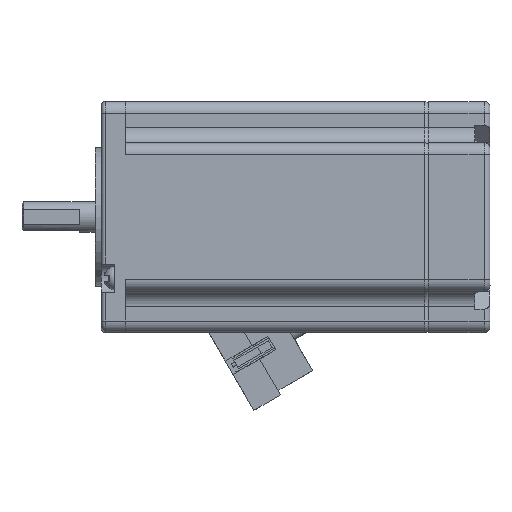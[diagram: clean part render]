
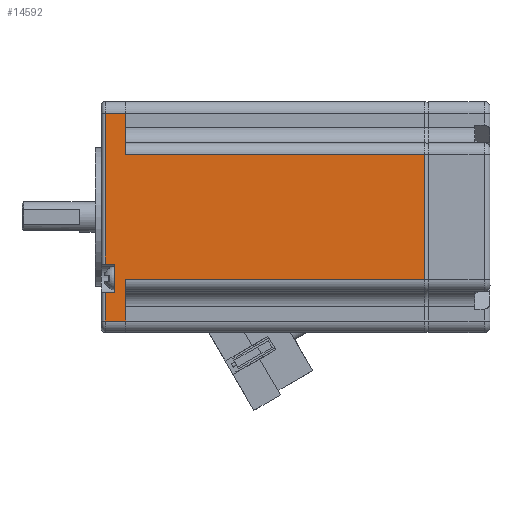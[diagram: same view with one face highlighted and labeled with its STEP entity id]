
A CAD part, front view. The second image highlights one B-rep face of the part: STEP entity #14592.
In plain terms, the highlighted planar face has unit normal (0, -1, 0).
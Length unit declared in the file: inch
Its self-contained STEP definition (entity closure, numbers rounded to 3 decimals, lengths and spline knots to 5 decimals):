
#661=FACE_OUTER_BOUND('',#1562,.T.);
#1562=EDGE_LOOP('',(#9898,#9899,#9900,#9901,#9902,#9903,#9904,#9905,#9906,
#9907,#9908,#9909));
#3246=LINE('',#21960,#4646);
#3289=LINE('',#22241,#4689);
#3290=LINE('',#22246,#4690);
#3291=LINE('',#22247,#4691);
#3292=LINE('',#22249,#4692);
#3293=LINE('',#22251,#4693);
#3294=LINE('',#22253,#4694);
#3295=LINE('',#22255,#4695);
#3296=LINE('',#22257,#4696);
#3297=LINE('',#22259,#4697);
#3298=LINE('',#22261,#4698);
#3299=LINE('',#22262,#4699);
#4646=VECTOR('',#17299,1.28346);
#4689=VECTOR('',#17450,3.05906);
#4690=VECTOR('',#17455,0.20866);
#4691=VECTOR('',#17456,0.42126);
#4692=VECTOR('',#17457,3.05906);
#4693=VECTOR('',#17458,0.42126);
#4694=VECTOR('',#17459,0.20866);
#4695=VECTOR('',#17460,1.54331);
#4696=VECTOR('',#17461,0.09843);
#4697=VECTOR('',#17462,0.29134);
#4698=VECTOR('',#17463,0.09843);
#4699=VECTOR('',#17464,0.29134);
#6129=VERTEX_POINT('',#21952);
#6131=VERTEX_POINT('',#21958);
#6177=VERTEX_POINT('',#22240);
#6178=VERTEX_POINT('',#22244);
#6179=VERTEX_POINT('',#22245);
#6180=VERTEX_POINT('',#22248);
#6181=VERTEX_POINT('',#22250);
#6182=VERTEX_POINT('',#22252);
#6183=VERTEX_POINT('',#22254);
#6184=VERTEX_POINT('',#22256);
#6185=VERTEX_POINT('',#22258);
#6186=VERTEX_POINT('',#22260);
#7581=EDGE_CURVE('',#6131,#6129,#3246,.T.);
#7654=EDGE_CURVE('',#6129,#6177,#3289,.T.);
#7656=EDGE_CURVE('',#6178,#6179,#3290,.T.);
#7657=EDGE_CURVE('',#6179,#6177,#3291,.T.);
#7658=EDGE_CURVE('',#6131,#6180,#3292,.T.);
#7659=EDGE_CURVE('',#6180,#6181,#3293,.T.);
#7660=EDGE_CURVE('',#6181,#6182,#3294,.T.);
#7661=EDGE_CURVE('',#6182,#6183,#3295,.T.);
#7662=EDGE_CURVE('',#6183,#6184,#3296,.T.);
#7663=EDGE_CURVE('',#6184,#6185,#3297,.T.);
#7664=EDGE_CURVE('',#6185,#6186,#3298,.T.);
#7665=EDGE_CURVE('',#6186,#6178,#3299,.T.);
#9898=ORIENTED_EDGE('',*,*,#7656,.T.);
#9899=ORIENTED_EDGE('',*,*,#7657,.T.);
#9900=ORIENTED_EDGE('',*,*,#7654,.F.);
#9901=ORIENTED_EDGE('',*,*,#7581,.F.);
#9902=ORIENTED_EDGE('',*,*,#7658,.T.);
#9903=ORIENTED_EDGE('',*,*,#7659,.T.);
#9904=ORIENTED_EDGE('',*,*,#7660,.T.);
#9905=ORIENTED_EDGE('',*,*,#7661,.T.);
#9906=ORIENTED_EDGE('',*,*,#7662,.T.);
#9907=ORIENTED_EDGE('',*,*,#7663,.T.);
#9908=ORIENTED_EDGE('',*,*,#7664,.T.);
#9909=ORIENTED_EDGE('',*,*,#7665,.T.);
#13947=PLANE('',#15590);
#14592=ADVANCED_FACE('',(#661),#13947,.T.);
#15590=AXIS2_PLACEMENT_3D('',#22243,#17453,#17454);
#17299=DIRECTION('',(0.,0.,-1.));
#17450=DIRECTION('',(-1.,0.,0.));
#17453=DIRECTION('center_axis',(0.,-1.,0.));
#17454=DIRECTION('ref_axis',(1.,0.,0.));
#17455=DIRECTION('',(1.,0.,0.));
#17456=DIRECTION('',(0.,0.,1.));
#17457=DIRECTION('',(-1.,0.,0.));
#17458=DIRECTION('',(0.,0.,1.));
#17459=DIRECTION('',(-1.,0.,0.));
#17460=DIRECTION('',(0.,0.,-1.));
#17461=DIRECTION('',(1.,0.,0.));
#17462=DIRECTION('',(0.,0.,-1.));
#17463=DIRECTION('',(-1.,0.,0.));
#17464=DIRECTION('',(0.,0.,-1.));
#21952=CARTESIAN_POINT('',(3.54331,-1.1173,-0.54306));
#21958=CARTESIAN_POINT('',(3.54331,-1.1173,0.7404));
#21960=CARTESIAN_POINT('',(3.54331,-1.1173,1.27977));
#22240=CARTESIAN_POINT('',(0.48425,-1.1173,-0.54306));
#22241=CARTESIAN_POINT('',(0.48425,-1.1173,-0.54306));
#22243=CARTESIAN_POINT('Origin',(0.23622,-1.1173,1.27977));
#22244=CARTESIAN_POINT('',(0.27559,-1.1173,-0.96432));
#22245=CARTESIAN_POINT('',(0.48425,-1.1173,-0.96432));
#22246=CARTESIAN_POINT('',(0.23622,-1.1173,-0.96432));
#22247=CARTESIAN_POINT('',(0.48425,-1.1173,1.27977));
#22248=CARTESIAN_POINT('',(0.48425,-1.1173,0.7404));
#22249=CARTESIAN_POINT('',(0.23622,-1.1173,0.7404));
#22250=CARTESIAN_POINT('',(0.48425,-1.1173,1.16166));
#22251=CARTESIAN_POINT('',(0.48425,-1.1173,1.27977));
#22252=CARTESIAN_POINT('',(0.27559,-1.1173,1.16166));
#22253=CARTESIAN_POINT('',(0.23622,-1.1173,1.16166));
#22254=CARTESIAN_POINT('',(0.27559,-1.1173,-0.38165));
#22255=CARTESIAN_POINT('',(0.27559,-1.1173,1.27977));
#22256=CARTESIAN_POINT('',(0.37402,-1.1173,-0.38165));
#22257=CARTESIAN_POINT('',(0.23622,-1.1173,-0.38165));
#22258=CARTESIAN_POINT('',(0.37402,-1.1173,-0.67298));
#22259=CARTESIAN_POINT('',(0.37402,-1.1173,1.27977));
#22260=CARTESIAN_POINT('',(0.27559,-1.1173,-0.67298));
#22261=CARTESIAN_POINT('',(0.23622,-1.1173,-0.67298));
#22262=CARTESIAN_POINT('',(0.27559,-1.1173,1.27977));
